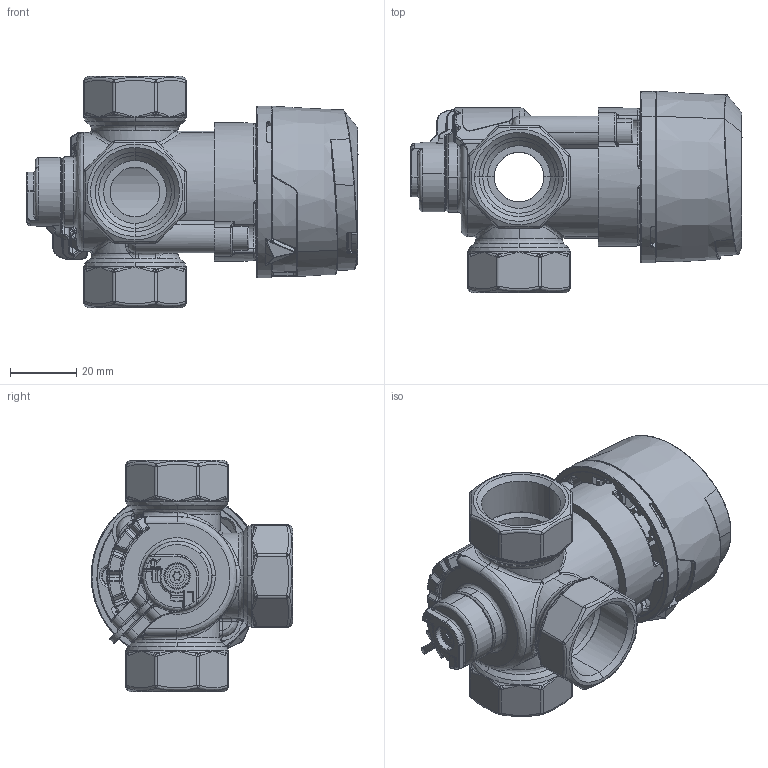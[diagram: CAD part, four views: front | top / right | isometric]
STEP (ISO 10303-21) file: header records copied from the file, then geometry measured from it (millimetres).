
FILE_DESCRIPTION (( 'STEP AP214' ), '1' );
FILE_NAME ('1338220.STEP', '2023-10-05T08:55:34', ( '' ), ( '' ), 'SwSTEP 2.0', 'SolidWorks 2022', '' );
FILE_SCHEMA (( 'AUTOMOTIVE_DESIGN' ));
Length unit declared in the file: millimetre
Products named in the file (20): Schild DN20_DN25; 3-Wege-Mischer ARV-Vario DN20_Baugruppe; Bedruckung_R_X_FCckseite; torx_socket_countersunk_flat_head_M3x14; 900084 0517_Zylinderschr. ISO 4762-M5x16_2; 900084 0517_Zylinderschr. ISO 4762-M5x16; 05 00 000276_Handrad Mischerbet. GE_X_C4NDERT; 05 01 001101_Geh_X_E4use 3-W ARV-Vario DN20; 05 00 000271_Sockel Mischerbet. _AFRISO-PL_; Bedruckung_Vorderseite; 1338220; 05 01 001117_Verstellhebel DN20_DN25; Bedruckung R; Bedruckung L; 05 00 000275_Skalenscheibe Mischerbet.beids.bedr. L_R; Baugruppe Mischerbet. _AFRISO-PL__Baugruppe; 05 01 001120_Aufnahmesockel DN20_DN25
Assembly tree (19 placements, depth 6):
  1338220
    3-Wege-Mischer ARV-Vario DN20_Baugruppe
      Baugruppe Mischerbet. _AFRISO-PL__Baugruppe
        05 00 000271_Sockel Mischerbet. _AFRISO-PL_
        05 00 000276_Handrad Mischerbet. GE_X_C4NDERT
        05 00 000275_Skalenscheibe Mischerbet.beids.bedr. L_R
          05 00 000275_Skalenscheibe Mischerbet.beids.bedr. L_R
          Bedruckung_Vorderseite
            Bedruckung_Vorderseite
            Bedruckung L
          Bedruckung_R_X_FCckseite
            Bedruckung_R_X_FCckseite
            Bedruckung R
      900084 0517_Zylinderschr. ISO 4762-M5x16
      900084 0517_Zylinderschr. ISO 4762-M5x16_2
      Schild DN20_DN25
      05 01 001120_Aufnahmesockel DN20_DN25
      05 01 001117_Verstellhebel DN20_DN25
      05 01 001101_Geh_X_E4use 3-W ARV-Vario DN20
    torx_socket_countersunk_flat_head_M3x14
Bounding box: 100.5 x 60.99 x 70 mm (x, y, z)
Volume: 73943.5 mm3; surface area: 63220.4 mm2
Topology: 68 solids, 68 shells, 5513 faces, 14806 edges, 9193 vertices
Faces by surface type: plane 3061, bspline 1321, cylinder 898, cone 229, torus 4
Entity records: 359564 total; most frequent: CARTESIAN_POINT 198681, ORIENTED_EDGE 29108, DIRECTION 22470, EDGE_CURVE 14554, VERTEX_POINT 9192, VECTOR 9056, LINE 9056, AXIS2_PLACEMENT_3D 6707
